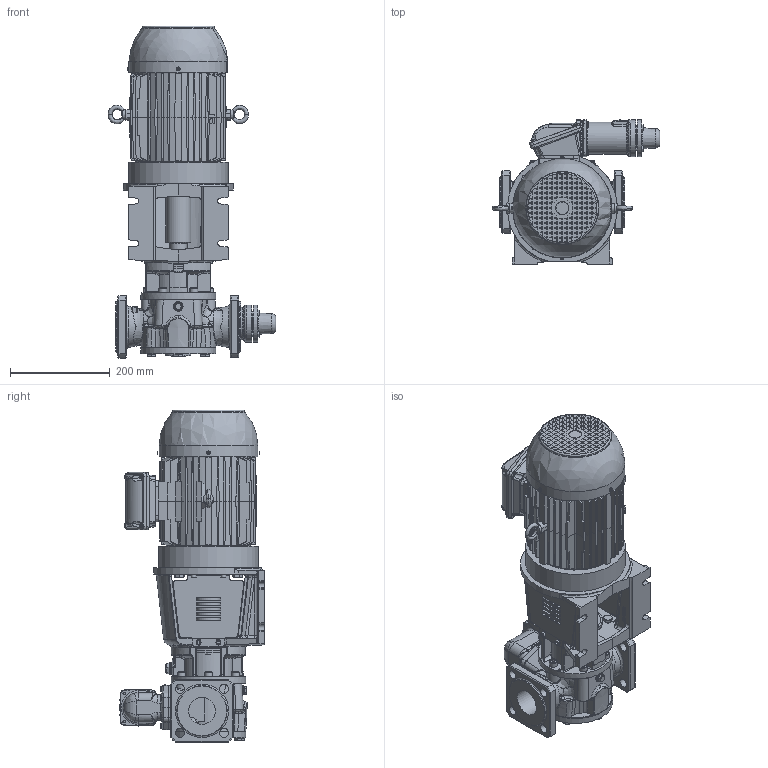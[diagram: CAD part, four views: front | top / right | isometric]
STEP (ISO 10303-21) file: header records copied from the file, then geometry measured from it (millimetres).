
FILE_DESCRIPTION(/* description */ (''),/* implementation_level */ '2;1');
FILE_NAME(/* name */ 'C:\V\JPP\Designs\GEAR PUMPS\PRODUCT ENGINEERING\EUROPE\TG BLOC\TG BLOC_15-50_G2_O_RV1-_100L-STEP.stp',/* time_stamp */ '2021-03-17T08:56:55+01:00',/* author */ ('A77THR'),/* organization */ (''),/* preprocessor_version */ 'ST-DEVELOPER v18.1',/* originating_system */ 'Autodesk Inventor 2020',/* authorisation */ '');
FILE_SCHEMA (('AUTOMOTIVE_DESIGN { 1 0 10303 214 3 1 1 }'));
Length unit declared in the file: millimetre
Products named in the file (1): TG BLOC_15-50_G2_O_RV1-_100L
Bounding box: 336.99 x 290.19 x 666.1 mm (x, y, z)
Volume: 14889641.1 mm3; surface area: 1064134.8 mm2
Topology: 1 solids, 1 shells, 4376 faces, 11178 edges, 7041 vertices
Faces by surface type: plane 2300, bspline 826, cylinder 661, cone 366, torus 163, sphere 60
Full cylindrical faces by diameter (mm): 3.15 x1, 4.5 x4, 4.917 x4, 5 x5, 5.459 x16, 6 x18, 6.647 x1, 7 x16, 8.376 x5, 8.5 x2, 8.7 x16, 9.188 x4, 10 x12, 10.5 x1, 11.445 x2, 11.5 x4, 12 x5, 15.011 x3, 15.4 x14, 16 x6, 17.9 x3, 18 x11, 19 x3, 21.939 x1, 25.9 x1, 26 x2, 27.6 x1, 27.9 x1, 28 x2, 29.4 x1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
Entity records: 181276 total; most frequent: CARTESIAN_POINT 77727, ORIENTED_EDGE 22204, DIRECTION 18557, EDGE_CURVE 11102, VERTEX_POINT 7041, AXIS2_PLACEMENT_3D 6530, LINE 5497, VECTOR 5497
